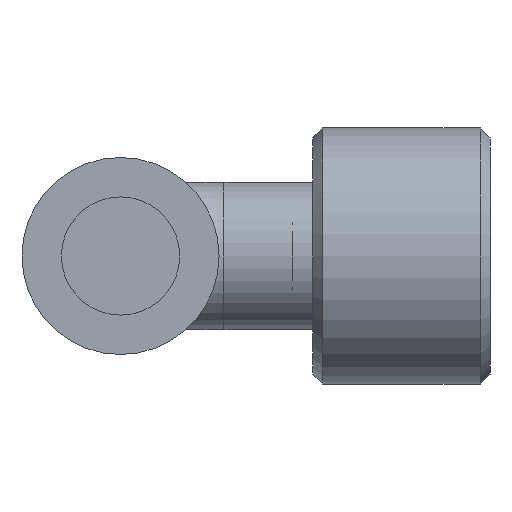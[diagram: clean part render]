
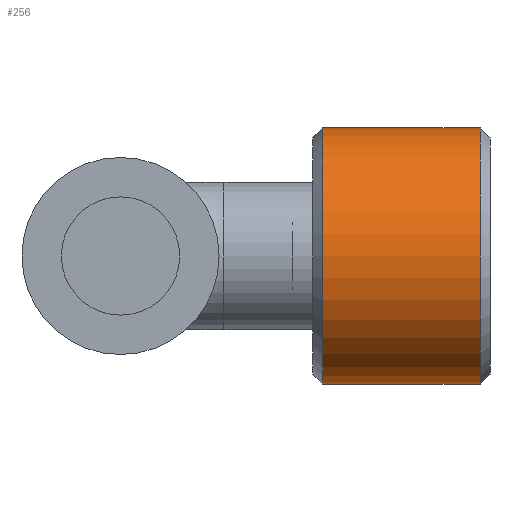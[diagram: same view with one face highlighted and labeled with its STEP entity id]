
A CAD part, front view. The second image highlights one B-rep face of the part: STEP entity #256.
In plain terms, the highlighted cylindrical face has radius 13 mm (diameter 26 mm), a full revolution.
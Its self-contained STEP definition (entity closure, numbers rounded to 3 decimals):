
#256 = ADVANCED_FACE( '', ( #329, #330 ), #331, .T. );
#329 = FACE_OUTER_BOUND( '', #462, .T. );
#330 = FACE_OUTER_BOUND( '', #463, .T. );
#331 = CYLINDRICAL_SURFACE( '', #464, 13. );
#462 = EDGE_LOOP( '', ( #620 ) );
#463 = EDGE_LOOP( '', ( #621 ) );
#464 = AXIS2_PLACEMENT_3D( '', #622, #623, #624 );
#620 = ORIENTED_EDGE( '', *, *, #792, .T. );
#621 = ORIENTED_EDGE( '', *, *, #793, .F. );
#622 = CARTESIAN_POINT( '', ( 18., 0., 0. ) );
#623 = DIRECTION( '', ( -1., 0., 0. ) );
#624 = DIRECTION( '', ( 0., 0., -1. ) );
#792 = EDGE_CURVE( '', #851, #851, #852, .T. );
#793 = EDGE_CURVE( '', #853, #853, #854, .T. );
#851 = VERTEX_POINT( '', #937 );
#852 = CIRCLE( '', #938, 13. );
#853 = VERTEX_POINT( '', #939 );
#854 = CIRCLE( '', #940, 13. );
#937 = CARTESIAN_POINT( '', ( 1., 0., -13. ) );
#938 = AXIS2_PLACEMENT_3D( '', #1038, #1039, #1040 );
#939 = CARTESIAN_POINT( '', ( 17., 0., -13. ) );
#940 = AXIS2_PLACEMENT_3D( '', #1041, #1042, #1043 );
#1038 = CARTESIAN_POINT( '', ( 1., 0., 0. ) );
#1039 = DIRECTION( '', ( 1., 0., 0. ) );
#1040 = DIRECTION( '', ( 0., 0., -1. ) );
#1041 = CARTESIAN_POINT( '', ( 17., 0., 0. ) );
#1042 = DIRECTION( '', ( 1., 0., 0. ) );
#1043 = DIRECTION( '', ( 0., 0., -1. ) );
